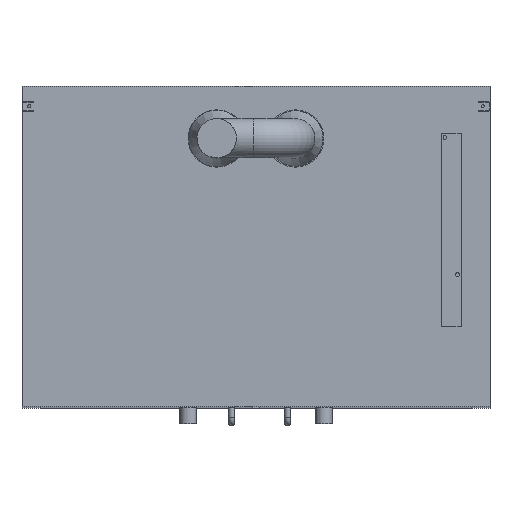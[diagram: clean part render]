
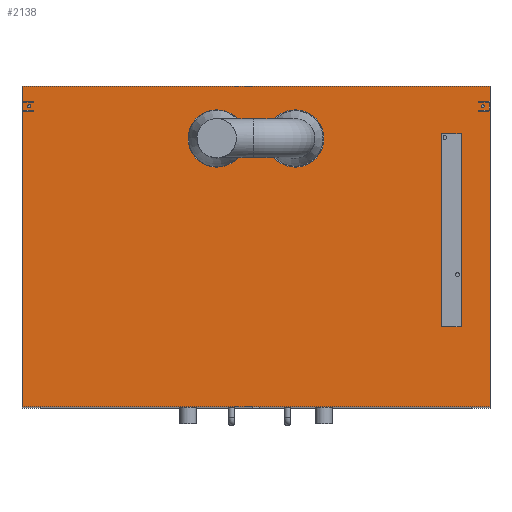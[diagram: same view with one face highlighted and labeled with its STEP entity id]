
A CAD part, top view. The second image highlights one B-rep face of the part: STEP entity #2138.
In plain terms, the highlighted planar face has unit normal (0, 0, 1).
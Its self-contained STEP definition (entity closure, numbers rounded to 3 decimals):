
#50=LINE('',#2804,#194);
#54=LINE('',#2813,#198);
#57=LINE('',#2819,#201);
#60=LINE('',#2825,#204);
#62=LINE('',#2840,#206);
#63=LINE('',#2843,#207);
#64=LINE('',#2845,#208);
#65=LINE('',#2847,#209);
#66=LINE('',#2849,#210);
#67=LINE('',#2851,#211);
#68=LINE('',#2853,#212);
#69=LINE('',#2855,#213);
#70=LINE('',#2857,#214);
#71=LINE('',#2859,#215);
#72=LINE('',#2861,#216);
#73=LINE('',#2863,#217);
#74=LINE('',#2865,#218);
#75=LINE('',#2867,#219);
#76=LINE('',#2869,#220);
#77=LINE('',#2871,#221);
#78=LINE('',#2873,#222);
#79=LINE('',#2875,#223);
#80=LINE('',#2877,#224);
#81=LINE('',#2879,#225);
#194=VECTOR('',#2379,1000.);
#198=VECTOR('',#2385,1000.);
#201=VECTOR('',#2390,1000.);
#204=VECTOR('',#2395,1000.);
#206=VECTOR('',#2415,1000.);
#207=VECTOR('',#2416,1000.);
#208=VECTOR('',#2417,1000.);
#209=VECTOR('',#2418,1000.);
#210=VECTOR('',#2419,1000.);
#211=VECTOR('',#2420,1000.);
#212=VECTOR('',#2421,1000.);
#213=VECTOR('',#2422,1000.);
#214=VECTOR('',#2423,1000.);
#215=VECTOR('',#2424,1000.);
#216=VECTOR('',#2425,1000.);
#217=VECTOR('',#2426,1000.);
#218=VECTOR('',#2427,1000.);
#219=VECTOR('',#2428,1000.);
#220=VECTOR('',#2429,1000.);
#221=VECTOR('',#2430,1000.);
#222=VECTOR('',#2431,1000.);
#223=VECTOR('',#2432,1000.);
#224=VECTOR('',#2433,1000.);
#225=VECTOR('',#2434,1000.);
#366=ORIENTED_EDGE('',*,*,#732,.T.);
#367=ORIENTED_EDGE('',*,*,#733,.T.);
#368=ORIENTED_EDGE('',*,*,#734,.T.);
#369=ORIENTED_EDGE('',*,*,#735,.F.);
#370=ORIENTED_EDGE('',*,*,#736,.T.);
#371=ORIENTED_EDGE('',*,*,#737,.T.);
#372=ORIENTED_EDGE('',*,*,#738,.T.);
#373=ORIENTED_EDGE('',*,*,#739,.T.);
#374=ORIENTED_EDGE('',*,*,#740,.T.);
#375=ORIENTED_EDGE('',*,*,#741,.T.);
#376=ORIENTED_EDGE('',*,*,#742,.T.);
#377=ORIENTED_EDGE('',*,*,#743,.T.);
#378=ORIENTED_EDGE('',*,*,#744,.T.);
#379=ORIENTED_EDGE('',*,*,#745,.T.);
#380=ORIENTED_EDGE('',*,*,#746,.F.);
#381=ORIENTED_EDGE('',*,*,#747,.F.);
#382=ORIENTED_EDGE('',*,*,#748,.T.);
#383=ORIENTED_EDGE('',*,*,#749,.T.);
#384=ORIENTED_EDGE('',*,*,#750,.T.);
#385=ORIENTED_EDGE('',*,*,#751,.T.);
#386=ORIENTED_EDGE('',*,*,#752,.T.);
#387=ORIENTED_EDGE('',*,*,#753,.T.);
#388=ORIENTED_EDGE('',*,*,#754,.T.);
#389=ORIENTED_EDGE('',*,*,#755,.F.);
#390=ORIENTED_EDGE('',*,*,#717,.F.);
#391=ORIENTED_EDGE('',*,*,#721,.F.);
#392=ORIENTED_EDGE('',*,*,#724,.F.);
#393=ORIENTED_EDGE('',*,*,#727,.F.);
#717=EDGE_CURVE('',#906,#907,#50,.T.);
#721=EDGE_CURVE('',#910,#906,#54,.T.);
#724=EDGE_CURVE('',#912,#910,#57,.T.);
#727=EDGE_CURVE('',#907,#912,#60,.T.);
#732=EDGE_CURVE('',#917,#917,#1050,.T.);
#733=EDGE_CURVE('',#918,#919,#62,.T.);
#734=EDGE_CURVE('',#919,#920,#63,.T.);
#735=EDGE_CURVE('',#921,#920,#64,.T.);
#736=EDGE_CURVE('',#921,#922,#65,.T.);
#737=EDGE_CURVE('',#922,#923,#66,.T.);
#738=EDGE_CURVE('',#923,#924,#67,.T.);
#739=EDGE_CURVE('',#924,#925,#68,.T.);
#740=EDGE_CURVE('',#925,#926,#69,.T.);
#741=EDGE_CURVE('',#926,#927,#70,.T.);
#742=EDGE_CURVE('',#927,#928,#71,.T.);
#743=EDGE_CURVE('',#928,#929,#72,.T.);
#744=EDGE_CURVE('',#929,#930,#73,.T.);
#745=EDGE_CURVE('',#930,#931,#74,.T.);
#746=EDGE_CURVE('',#932,#931,#75,.T.);
#747=EDGE_CURVE('',#933,#932,#76,.T.);
#748=EDGE_CURVE('',#933,#934,#77,.T.);
#749=EDGE_CURVE('',#934,#935,#78,.T.);
#750=EDGE_CURVE('',#935,#936,#79,.T.);
#751=EDGE_CURVE('',#936,#937,#80,.T.);
#752=EDGE_CURVE('',#937,#918,#81,.T.);
#753=EDGE_CURVE('',#938,#938,#1051,.T.);
#754=EDGE_CURVE('',#939,#939,#1052,.T.);
#755=EDGE_CURVE('',#940,#940,#1053,.F.);
#906=VERTEX_POINT('',#2805);
#907=VERTEX_POINT('',#2806);
#910=VERTEX_POINT('',#2814);
#912=VERTEX_POINT('',#2820);
#917=VERTEX_POINT('',#2839);
#918=VERTEX_POINT('',#2841);
#919=VERTEX_POINT('',#2842);
#920=VERTEX_POINT('',#2844);
#921=VERTEX_POINT('',#2846);
#922=VERTEX_POINT('',#2848);
#923=VERTEX_POINT('',#2850);
#924=VERTEX_POINT('',#2852);
#925=VERTEX_POINT('',#2854);
#926=VERTEX_POINT('',#2856);
#927=VERTEX_POINT('',#2858);
#928=VERTEX_POINT('',#2860);
#929=VERTEX_POINT('',#2862);
#930=VERTEX_POINT('',#2864);
#931=VERTEX_POINT('',#2866);
#932=VERTEX_POINT('',#2868);
#933=VERTEX_POINT('',#2870);
#934=VERTEX_POINT('',#2872);
#935=VERTEX_POINT('',#2874);
#936=VERTEX_POINT('',#2876);
#937=VERTEX_POINT('',#2878);
#938=VERTEX_POINT('',#2881);
#939=VERTEX_POINT('',#2883);
#940=VERTEX_POINT('',#2885);
#1050=CIRCLE('',#2244,3.1);
#1051=CIRCLE('',#2245,54.75);
#1052=CIRCLE('',#2246,54.75);
#1053=CIRCLE('',#2247,3.1);
#1102=EDGE_LOOP('',(#366));
#1103=EDGE_LOOP('',(#367,#368,#369,#370,#371,#372,#373,#374,#375,#376,#377,
#378,#379,#380,#381,#382,#383,#384,#385,#386));
#1104=EDGE_LOOP('',(#387));
#1105=EDGE_LOOP('',(#388));
#1106=EDGE_LOOP('',(#389));
#1107=EDGE_LOOP('',(#390,#391,#392,#393));
#1250=FACE_BOUND('',#1102,.T.);
#1251=FACE_BOUND('',#1103,.T.);
#1252=FACE_BOUND('',#1104,.T.);
#1253=FACE_BOUND('',#1105,.T.);
#1254=FACE_BOUND('',#1106,.T.);
#1255=FACE_BOUND('',#1107,.T.);
#1392=PLANE('',#2243);
#2138=ADVANCED_FACE('',(#1250,#1251,#1252,#1253,#1254,#1255),#1392,.F.);
#2243=AXIS2_PLACEMENT_3D('',#2837,#2411,#2412);
#2244=AXIS2_PLACEMENT_3D('',#2838,#2413,#2414);
#2245=AXIS2_PLACEMENT_3D('',#2880,#2435,#2436);
#2246=AXIS2_PLACEMENT_3D('',#2882,#2437,#2438);
#2247=AXIS2_PLACEMENT_3D('',#2884,#2439,#2440);
#2379=DIRECTION('',(0.,-1.,0.));
#2385=DIRECTION('',(-1.,0.,0.));
#2390=DIRECTION('',(0.,1.,0.));
#2395=DIRECTION('',(1.,0.,0.));
#2411=DIRECTION('',(0.,0.,-1.));
#2412=DIRECTION('',(-1.,0.,0.));
#2413=DIRECTION('',(0.,0.,-1.));
#2414=DIRECTION('',(-1.,0.,0.));
#2415=DIRECTION('',(0.,1.,0.));
#2416=DIRECTION('',(1.,0.,0.));
#2417=DIRECTION('',(0.,-1.,0.));
#2418=DIRECTION('',(-1.,0.,0.));
#2419=DIRECTION('',(0.,-1.,0.));
#2420=DIRECTION('',(1.,0.,0.));
#2421=DIRECTION('',(0.,-1.,0.));
#2422=DIRECTION('',(-1.,0.,0.));
#2423=DIRECTION('',(0.,-1.,0.));
#2424=DIRECTION('',(1.,0.,0.));
#2425=DIRECTION('',(0.,-1.,0.));
#2426=DIRECTION('',(-1.,0.,0.));
#2427=DIRECTION('',(0.,-1.,0.));
#2428=DIRECTION('',(-1.,0.,0.));
#2429=DIRECTION('',(0.,-1.,0.));
#2430=DIRECTION('',(-1.,0.,0.));
#2431=DIRECTION('',(0.,1.,0.));
#2432=DIRECTION('',(1.,0.,0.));
#2433=DIRECTION('',(0.,1.,0.));
#2434=DIRECTION('',(-1.,0.,0.));
#2435=DIRECTION('',(0.,0.,-1.));
#2436=DIRECTION('',(-1.,0.,0.));
#2437=DIRECTION('',(0.,0.,-1.));
#2438=DIRECTION('',(1.,0.,0.));
#2439=DIRECTION('',(0.,0.,-1.));
#2440=DIRECTION('',(-1.,0.,0.));
#2804=CARTESIAN_POINT('',(801.,612.,2045.));
#2805=CARTESIAN_POINT('',(801.,521.,2045.));
#2806=CARTESIAN_POINT('',(801.,152.,2045.));
#2813=CARTESIAN_POINT('',(1194.,521.,2045.));
#2814=CARTESIAN_POINT('',(839.,521.,2045.));
#2819=CARTESIAN_POINT('',(839.,612.,2045.));
#2820=CARTESIAN_POINT('',(839.,152.,2045.));
#2825=CARTESIAN_POINT('',(1194.,152.,2045.));
#2837=CARTESIAN_POINT('',(1194.,612.,2045.));
#2838=CARTESIAN_POINT('',(14.,573.5,2045.));
#2839=CARTESIAN_POINT('',(10.9,573.5,2045.));
#2840=CARTESIAN_POINT('',(872.5,583.,2045.));
#2841=CARTESIAN_POINT('',(872.5,581.,2045.));
#2842=CARTESIAN_POINT('',(872.5,583.,2045.));
#2843=CARTESIAN_POINT('',(894.,583.,2045.));
#2844=CARTESIAN_POINT('',(894.,583.,2045.));
#2845=CARTESIAN_POINT('',(894.,612.,2045.));
#2846=CARTESIAN_POINT('',(894.,612.,2045.));
#2847=CARTESIAN_POINT('',(1194.,612.,2045.));
#2848=CARTESIAN_POINT('',(0.,612.,2045.));
#2849=CARTESIAN_POINT('',(0.,612.,2045.));
#2850=CARTESIAN_POINT('',(0.,583.,2045.));
#2851=CARTESIAN_POINT('',(0.,583.,2045.));
#2852=CARTESIAN_POINT('',(21.5,583.,2045.));
#2853=CARTESIAN_POINT('',(21.5,583.,2045.));
#2854=CARTESIAN_POINT('',(21.5,581.,2045.));
#2855=CARTESIAN_POINT('',(21.5,581.,2045.));
#2856=CARTESIAN_POINT('',(1.5,581.,2045.));
#2857=CARTESIAN_POINT('',(1.5,581.,2045.));
#2858=CARTESIAN_POINT('',(1.5,566.,2045.));
#2859=CARTESIAN_POINT('',(1.5,566.,2045.));
#2860=CARTESIAN_POINT('',(21.5,566.,2045.));
#2861=CARTESIAN_POINT('',(21.5,566.,2045.));
#2862=CARTESIAN_POINT('',(21.5,564.,2045.));
#2863=CARTESIAN_POINT('',(21.5,564.,2045.));
#2864=CARTESIAN_POINT('',(0.,564.,2045.));
#2865=CARTESIAN_POINT('',(0.,612.,2045.));
#2866=CARTESIAN_POINT('',(0.,0.,2045.));
#2867=CARTESIAN_POINT('',(1194.,0.,2045.));
#2868=CARTESIAN_POINT('',(894.,0.,2045.));
#2869=CARTESIAN_POINT('',(894.,612.,2045.));
#2870=CARTESIAN_POINT('',(894.,564.,2045.));
#2871=CARTESIAN_POINT('',(872.5,564.,2045.));
#2872=CARTESIAN_POINT('',(872.5,564.,2045.));
#2873=CARTESIAN_POINT('',(872.5,566.,2045.));
#2874=CARTESIAN_POINT('',(872.5,566.,2045.));
#2875=CARTESIAN_POINT('',(892.5,566.,2045.));
#2876=CARTESIAN_POINT('',(892.5,566.,2045.));
#2877=CARTESIAN_POINT('',(892.5,581.,2045.));
#2878=CARTESIAN_POINT('',(892.5,581.,2045.));
#2879=CARTESIAN_POINT('',(872.5,581.,2045.));
#2880=CARTESIAN_POINT('',(372.,512.,2045.));
#2881=CARTESIAN_POINT('',(317.25,512.,2045.));
#2882=CARTESIAN_POINT('',(521.997,512.,2045.));
#2883=CARTESIAN_POINT('',(576.747,512.,2045.));
#2884=CARTESIAN_POINT('',(880.,573.5,2045.));
#2885=CARTESIAN_POINT('',(876.9,573.5,2045.));
